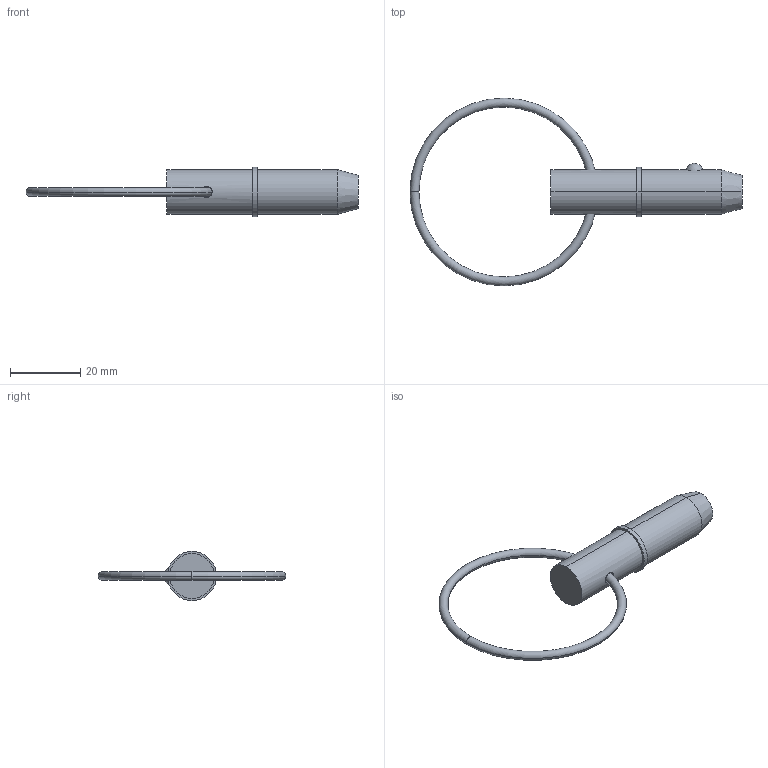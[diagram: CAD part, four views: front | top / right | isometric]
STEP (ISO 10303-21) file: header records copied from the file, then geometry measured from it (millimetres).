
FILE_DESCRIPTION (( 'STEP AP203' ), '1' );
FILE_NAME ('33016.W5005.step', '2024-11-07T11:08:22', ( '' ), ( '' ), 'SwSTEP 2.0', 'SolidWorks 2019', '' );
FILE_SCHEMA (( 'CONFIG_CONTROL_DESIGN' ));
Length unit declared in the file: millimetre
Products named in the file (3): Part1_33016.W5005; Part2_33016.W5005; 33016.W5005
Assembly tree (2 placements, depth 2):
  33016.W5005
    Part1_33016.W5005
    Part2_33016.W5005
Bounding box: 94.33 x 53.34 x 13.97 mm (x, y, z)
Volume: 7465.8 mm3; surface area: 3795.1 mm2
Topology: 2 solids, 2 shells, 22 faces, 43 edges, 26 vertices
Faces by surface type: torus 8, cylinder 6, plane 4, sphere 2, cone 2
Entity records: 1039 total; most frequent: CARTESIAN_POINT 262, DIRECTION 120, ORIENTED_EDGE 86, AXIS2_PLACEMENT_3D 56, EDGE_CURVE 43, CIRCLE 29, EDGE_LOOP 27, VERTEX_POINT 26
